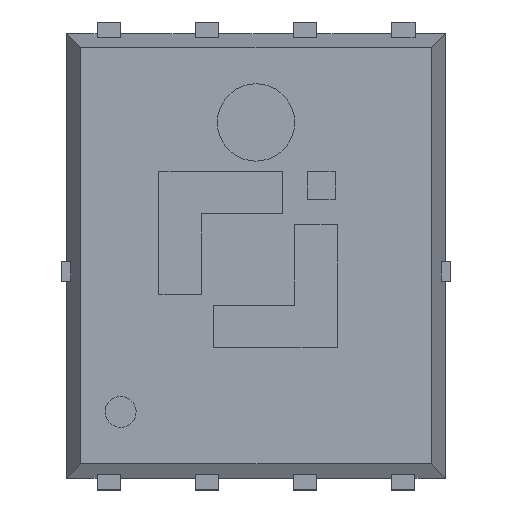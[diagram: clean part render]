
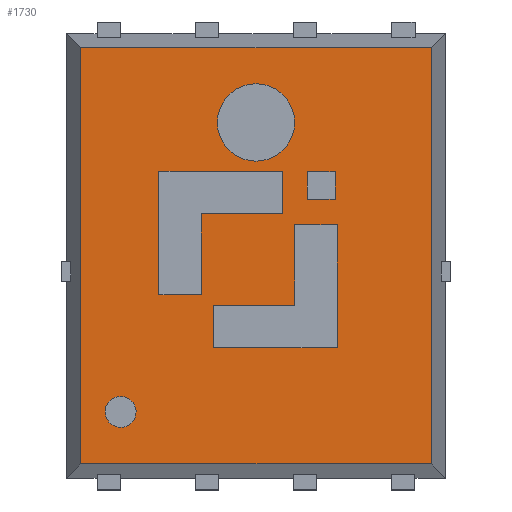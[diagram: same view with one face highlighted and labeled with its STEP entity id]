
A CAD part, top view. The second image highlights one B-rep face of the part: STEP entity #1730.
In plain terms, the highlighted planar face has unit normal (0, 0, 1).
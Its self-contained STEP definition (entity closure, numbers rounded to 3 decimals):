
#1526=CARTESIAN_POINT('',(0.,0.,0.95));
#1527=DIRECTION('',(0.,0.,1.));
#1528=DIRECTION('',(1.,0.,0.));
#1529=AXIS2_PLACEMENT_3D('',#1526,#1527,#1528);
#1530=PLANE('',#1529);
#1531=CARTESIAN_POINT('',(-1.688,-1.827,0.95));
#1532=VERTEX_POINT('',#1531);
#1533=CARTESIAN_POINT('',(-1.55,-2.018,0.95));
#1534=VERTEX_POINT('',#1533);
#1535=CARTESIAN_POINT('',(-1.75,-2.018,0.95));
#1536=DIRECTION('',(0.,0.,1.));
#1537=DIRECTION('',(1.,0.,-0.));
#1538=AXIS2_PLACEMENT_3D('',#1535,#1536,#1537);
#1539=CIRCLE('',#1538,0.2);
#1540=EDGE_CURVE('',#1532,#1534,#1539,.T.);
#1541=ORIENTED_EDGE('',*,*,#1540,.F.);
#1542=CARTESIAN_POINT('',(-1.75,-2.018,0.95));
#1543=DIRECTION('',(0.,0.,1.));
#1544=DIRECTION('',(1.,0.,-0.));
#1545=AXIS2_PLACEMENT_3D('',#1542,#1543,#1544);
#1546=CIRCLE('',#1545,0.2);
#1547=EDGE_CURVE('',#1534,#1532,#1546,.T.);
#1548=ORIENTED_EDGE('',*,*,#1547,.F.);
#1549=EDGE_LOOP('',(#1541,#1548));
#1550=FACE_BOUND('',#1549,.T.);
#1551=CARTESIAN_POINT('',(-2.265,2.69,0.95));
#1552=VERTEX_POINT('',#1551);
#1553=CARTESIAN_POINT('',(-2.265,-2.69,0.95));
#1554=VERTEX_POINT('',#1553);
#1555=CARTESIAN_POINT('',(-2.265,2.69,0.95));
#1556=DIRECTION('',(0.,-1.,0.));
#1557=VECTOR('',#1556,5.38);
#1558=LINE('',#1555,#1557);
#1559=EDGE_CURVE('',#1552,#1554,#1558,.T.);
#1560=ORIENTED_EDGE('',*,*,#1559,.T.);
#1561=CARTESIAN_POINT('',(2.265,-2.69,0.95));
#1562=VERTEX_POINT('',#1561);
#1563=CARTESIAN_POINT('',(-2.265,-2.69,0.95));
#1564=DIRECTION('',(1.,0.,0.));
#1565=VECTOR('',#1564,4.53);
#1566=LINE('',#1563,#1565);
#1567=EDGE_CURVE('',#1554,#1562,#1566,.T.);
#1568=ORIENTED_EDGE('',*,*,#1567,.T.);
#1569=CARTESIAN_POINT('',(2.265,2.69,0.95));
#1570=VERTEX_POINT('',#1569);
#1571=CARTESIAN_POINT('',(2.265,-2.69,0.95));
#1572=DIRECTION('',(-0.,1.,0.));
#1573=VECTOR('',#1572,5.38);
#1574=LINE('',#1571,#1573);
#1575=EDGE_CURVE('',#1562,#1570,#1574,.T.);
#1576=ORIENTED_EDGE('',*,*,#1575,.T.);
#1577=CARTESIAN_POINT('',(2.265,2.69,0.95));
#1578=DIRECTION('',(-1.,0.,0.));
#1579=VECTOR('',#1578,4.53);
#1580=LINE('',#1577,#1579);
#1581=EDGE_CURVE('',#1570,#1552,#1580,.T.);
#1582=ORIENTED_EDGE('',*,*,#1581,.T.);
#1583=EDGE_LOOP('',(#1560,#1568,#1576,#1582));
#1584=FACE_BOUND('',#1583,.T.);
#1585=CARTESIAN_POINT('',(0.5,1.725,0.95));
#1586=VERTEX_POINT('',#1585);
#1587=CARTESIAN_POINT('',(0.,1.725,0.95));
#1588=DIRECTION('',(0.,0.,1.));
#1589=DIRECTION('',(1.,0.,-0.));
#1590=AXIS2_PLACEMENT_3D('',#1587,#1588,#1589);
#1591=CIRCLE('',#1590,0.5);
#1592=EDGE_CURVE('',#1586,#1586,#1591,.T.);
#1593=ORIENTED_EDGE('',*,*,#1592,.F.);
#1594=EDGE_LOOP('',(#1593));
#1595=FACE_BOUND('',#1594,.T.);
#1596=CARTESIAN_POINT('',(0.5,0.403,0.95));
#1597=VERTEX_POINT('',#1596);
#1598=CARTESIAN_POINT('',(1.05,0.403,0.95));
#1599=VERTEX_POINT('',#1598);
#1600=CARTESIAN_POINT('',(0.5,0.403,0.95));
#1601=DIRECTION('',(1.,0.,0.));
#1602=VECTOR('',#1601,0.55);
#1603=LINE('',#1600,#1602);
#1604=EDGE_CURVE('',#1597,#1599,#1603,.T.);
#1605=ORIENTED_EDGE('',*,*,#1604,.T.);
#1606=CARTESIAN_POINT('',(1.05,-1.187,0.95));
#1607=VERTEX_POINT('',#1606);
#1608=CARTESIAN_POINT('',(1.05,0.403,0.95));
#1609=DIRECTION('',(0.,-1.,0.));
#1610=VECTOR('',#1609,1.59);
#1611=LINE('',#1608,#1610);
#1612=EDGE_CURVE('',#1599,#1607,#1611,.T.);
#1613=ORIENTED_EDGE('',*,*,#1612,.T.);
#1614=CARTESIAN_POINT('',(-0.55,-1.187,0.95));
#1615=VERTEX_POINT('',#1614);
#1616=CARTESIAN_POINT('',(1.05,-1.187,0.95));
#1617=DIRECTION('',(-1.,-0.,0.));
#1618=VECTOR('',#1617,1.6);
#1619=LINE('',#1616,#1618);
#1620=EDGE_CURVE('',#1607,#1615,#1619,.T.);
#1621=ORIENTED_EDGE('',*,*,#1620,.T.);
#1622=CARTESIAN_POINT('',(-0.55,-0.637,0.95));
#1623=VERTEX_POINT('',#1622);
#1624=CARTESIAN_POINT('',(-0.55,-1.187,0.95));
#1625=DIRECTION('',(-0.,1.,0.));
#1626=VECTOR('',#1625,0.55);
#1627=LINE('',#1624,#1626);
#1628=EDGE_CURVE('',#1615,#1623,#1627,.T.);
#1629=ORIENTED_EDGE('',*,*,#1628,.T.);
#1630=CARTESIAN_POINT('',(0.5,-0.637,0.95));
#1631=VERTEX_POINT('',#1630);
#1632=CARTESIAN_POINT('',(-0.55,-0.637,0.95));
#1633=DIRECTION('',(1.,0.,-0.));
#1634=VECTOR('',#1633,1.05);
#1635=LINE('',#1632,#1634);
#1636=EDGE_CURVE('',#1623,#1631,#1635,.T.);
#1637=ORIENTED_EDGE('',*,*,#1636,.T.);
#1638=CARTESIAN_POINT('',(0.5,-0.637,0.95));
#1639=DIRECTION('',(-0.,1.,0.));
#1640=VECTOR('',#1639,1.04);
#1641=LINE('',#1638,#1640);
#1642=EDGE_CURVE('',#1631,#1597,#1641,.T.);
#1643=ORIENTED_EDGE('',*,*,#1642,.T.);
#1644=EDGE_LOOP('',(#1605,#1613,#1621,#1629,#1637,#1643));
#1645=FACE_BOUND('',#1644,.T.);
#1646=CARTESIAN_POINT('',(0.663,1.09,0.95));
#1647=VERTEX_POINT('',#1646);
#1648=CARTESIAN_POINT('',(1.023,1.09,0.95));
#1649=VERTEX_POINT('',#1648);
#1650=CARTESIAN_POINT('',(0.663,1.09,0.95));
#1651=DIRECTION('',(1.,0.,-0.));
#1652=VECTOR('',#1651,0.36);
#1653=LINE('',#1650,#1652);
#1654=EDGE_CURVE('',#1647,#1649,#1653,.T.);
#1655=ORIENTED_EDGE('',*,*,#1654,.T.);
#1656=CARTESIAN_POINT('',(1.023,0.73,0.95));
#1657=VERTEX_POINT('',#1656);
#1658=CARTESIAN_POINT('',(1.023,1.09,0.95));
#1659=DIRECTION('',(0.,-1.,0.));
#1660=VECTOR('',#1659,0.36);
#1661=LINE('',#1658,#1660);
#1662=EDGE_CURVE('',#1649,#1657,#1661,.T.);
#1663=ORIENTED_EDGE('',*,*,#1662,.T.);
#1664=CARTESIAN_POINT('',(0.663,0.73,0.95));
#1665=VERTEX_POINT('',#1664);
#1666=CARTESIAN_POINT('',(1.023,0.73,0.95));
#1667=DIRECTION('',(-1.,0.,0.));
#1668=VECTOR('',#1667,0.36);
#1669=LINE('',#1666,#1668);
#1670=EDGE_CURVE('',#1657,#1665,#1669,.T.);
#1671=ORIENTED_EDGE('',*,*,#1670,.T.);
#1672=CARTESIAN_POINT('',(0.663,0.73,0.95));
#1673=DIRECTION('',(0.,1.,0.));
#1674=VECTOR('',#1673,0.36);
#1675=LINE('',#1672,#1674);
#1676=EDGE_CURVE('',#1665,#1647,#1675,.T.);
#1677=ORIENTED_EDGE('',*,*,#1676,.T.);
#1678=EDGE_LOOP('',(#1655,#1663,#1671,#1677));
#1679=FACE_BOUND('',#1678,.T.);
#1680=CARTESIAN_POINT('',(-1.255,1.094,0.95));
#1681=VERTEX_POINT('',#1680);
#1682=CARTESIAN_POINT('',(0.345,1.094,0.95));
#1683=VERTEX_POINT('',#1682);
#1684=CARTESIAN_POINT('',(-1.255,1.094,0.95));
#1685=DIRECTION('',(1.,0.,0.));
#1686=VECTOR('',#1685,1.6);
#1687=LINE('',#1684,#1686);
#1688=EDGE_CURVE('',#1681,#1683,#1687,.T.);
#1689=ORIENTED_EDGE('',*,*,#1688,.T.);
#1690=CARTESIAN_POINT('',(0.345,0.544,0.95));
#1691=VERTEX_POINT('',#1690);
#1692=CARTESIAN_POINT('',(0.345,1.094,0.95));
#1693=DIRECTION('',(0.,-1.,0.));
#1694=VECTOR('',#1693,0.55);
#1695=LINE('',#1692,#1694);
#1696=EDGE_CURVE('',#1683,#1691,#1695,.T.);
#1697=ORIENTED_EDGE('',*,*,#1696,.T.);
#1698=CARTESIAN_POINT('',(-0.705,0.544,0.95));
#1699=VERTEX_POINT('',#1698);
#1700=CARTESIAN_POINT('',(0.345,0.544,0.95));
#1701=DIRECTION('',(-1.,-0.,0.));
#1702=VECTOR('',#1701,1.05);
#1703=LINE('',#1700,#1702);
#1704=EDGE_CURVE('',#1691,#1699,#1703,.T.);
#1705=ORIENTED_EDGE('',*,*,#1704,.T.);
#1706=CARTESIAN_POINT('',(-0.705,-0.5,0.95));
#1707=VERTEX_POINT('',#1706);
#1708=CARTESIAN_POINT('',(-0.705,0.544,0.95));
#1709=DIRECTION('',(0.,-1.,0.));
#1710=VECTOR('',#1709,1.044);
#1711=LINE('',#1708,#1710);
#1712=EDGE_CURVE('',#1699,#1707,#1711,.T.);
#1713=ORIENTED_EDGE('',*,*,#1712,.T.);
#1714=CARTESIAN_POINT('',(-1.255,-0.5,0.95));
#1715=VERTEX_POINT('',#1714);
#1716=CARTESIAN_POINT('',(-0.705,-0.5,0.95));
#1717=DIRECTION('',(-1.,-0.,0.));
#1718=VECTOR('',#1717,0.55);
#1719=LINE('',#1716,#1718);
#1720=EDGE_CURVE('',#1707,#1715,#1719,.T.);
#1721=ORIENTED_EDGE('',*,*,#1720,.T.);
#1722=CARTESIAN_POINT('',(-1.255,-0.5,0.95));
#1723=DIRECTION('',(-0.,1.,0.));
#1724=VECTOR('',#1723,1.594);
#1725=LINE('',#1722,#1724);
#1726=EDGE_CURVE('',#1715,#1681,#1725,.T.);
#1727=ORIENTED_EDGE('',*,*,#1726,.T.);
#1728=EDGE_LOOP('',(#1689,#1697,#1705,#1713,#1721,#1727));
#1729=FACE_BOUND('',#1728,.T.);
#1730=ADVANCED_FACE('',(#1550,#1584,#1595,#1645,#1679,#1729),#1530,.T.);
